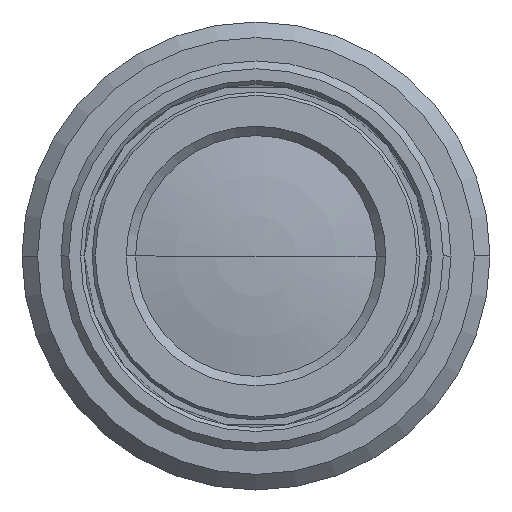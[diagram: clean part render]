
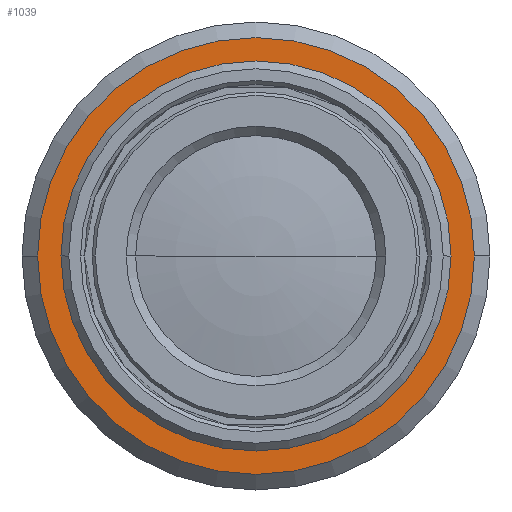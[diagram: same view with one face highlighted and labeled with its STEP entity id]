
A CAD part, left-side view. The second image highlights one B-rep face of the part: STEP entity #1039.
In plain terms, the highlighted planar face has unit normal (-1, 0, 0).
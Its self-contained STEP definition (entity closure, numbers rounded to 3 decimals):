
#35 = VERTEX_POINT ( 'NONE', #451 ) ;
#37 = VERTEX_POINT ( 'NONE', #466 ) ;
#38 = VERTEX_POINT ( 'NONE', #467 ) ;
#40 = VERTEX_POINT ( 'NONE', #469 ) ;
#66 = ORIENTED_EDGE ( 'NONE', *, *, #2100, .T. ) ;
#84 = ORIENTED_EDGE ( 'NONE', *, *, #2097, .F. ) ;
#88 = ORIENTED_EDGE ( 'NONE', *, *, #2103, .T. ) ;
#145 = ORIENTED_EDGE ( 'NONE', *, *, #2105, .F. ) ;
#265 = EDGE_LOOP ( 'NONE', ( #84, #145 ) ) ;
#267 = EDGE_LOOP ( 'NONE', ( #88, #66 ) ) ;
#445 = DIRECTION ( 'NONE',  ( 1., 0., 0. ) ) ;
#451 = CARTESIAN_POINT ( 'NONE',  ( -24., -14., 0. ) ) ;
#460 = PLANE ( 'NONE',  #2201 ) ;
#466 = CARTESIAN_POINT ( 'NONE',  ( -24., 14., 0. ) ) ;
#467 = CARTESIAN_POINT ( 'NONE',  ( -24., -11., 0. ) ) ;
#469 = CARTESIAN_POINT ( 'NONE',  ( -24., 11., 0. ) ) ;
#487 = DIRECTION ( 'NONE',  ( 0., 1., 0. ) ) ;
#498 = CARTESIAN_POINT ( 'NONE',  ( -24., 14., 0. ) ) ;
#1039 = ADVANCED_FACE ( 'NONE', ( #1150, #1156 ), #460, .F. ) ;
#1150 = FACE_BOUND ( 'NONE', #265, .T. ) ;
#1156 = FACE_OUTER_BOUND ( 'NONE', #267, .T. ) ;
#1567 = CARTESIAN_POINT ( 'NONE',  ( -24., 0., 0. ) ) ;
#1568 = DIRECTION ( 'NONE',  ( -1., 0., 0. ) ) ;
#1569 = DIRECTION ( 'NONE',  ( 0., -1., 0. ) ) ;
#1574 = CARTESIAN_POINT ( 'NONE',  ( -24., 0., 0. ) ) ;
#1575 = DIRECTION ( 'NONE',  ( -1., 0., 0. ) ) ;
#1576 = DIRECTION ( 'NONE',  ( 0., -1., 0. ) ) ;
#1579 = CARTESIAN_POINT ( 'NONE',  ( -24., 0., 0. ) ) ;
#1580 = DIRECTION ( 'NONE',  ( -1., 0., 0. ) ) ;
#1581 = DIRECTION ( 'NONE',  ( 0., -1., 0. ) ) ;
#1585 = CARTESIAN_POINT ( 'NONE',  ( -24., 0., 0. ) ) ;
#1586 = DIRECTION ( 'NONE',  ( -1., 0., 0. ) ) ;
#1587 = DIRECTION ( 'NONE',  ( 0., -1., 0. ) ) ;
#1836 = CIRCLE ( 'NONE', #2306, 11. ) ;
#1841 = CIRCLE ( 'NONE', #2307, 14. ) ;
#1846 = CIRCLE ( 'NONE', #2308, 14. ) ;
#1852 = CIRCLE ( 'NONE', #2310, 11. ) ;
#2097 = EDGE_CURVE ( 'NONE', #38, #40, #1836, .T. ) ;
#2100 = EDGE_CURVE ( 'NONE', #35, #37, #1841, .T. ) ;
#2103 = EDGE_CURVE ( 'NONE', #37, #35, #1846, .T. ) ;
#2105 = EDGE_CURVE ( 'NONE', #40, #38, #1852, .T. ) ;
#2201 = AXIS2_PLACEMENT_3D ( 'NONE', #498, #445, #487 ) ;
#2306 = AXIS2_PLACEMENT_3D ( 'NONE', #1567, #1568, #1569 ) ;
#2307 = AXIS2_PLACEMENT_3D ( 'NONE', #1574, #1575, #1576 ) ;
#2308 = AXIS2_PLACEMENT_3D ( 'NONE', #1579, #1580, #1581 ) ;
#2310 = AXIS2_PLACEMENT_3D ( 'NONE', #1585, #1586, #1587 ) ;
